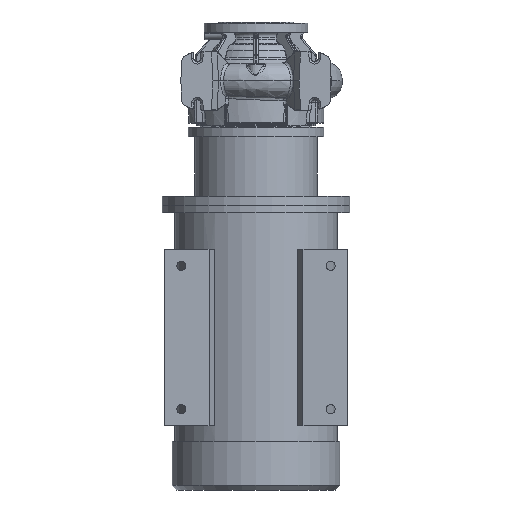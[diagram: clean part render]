
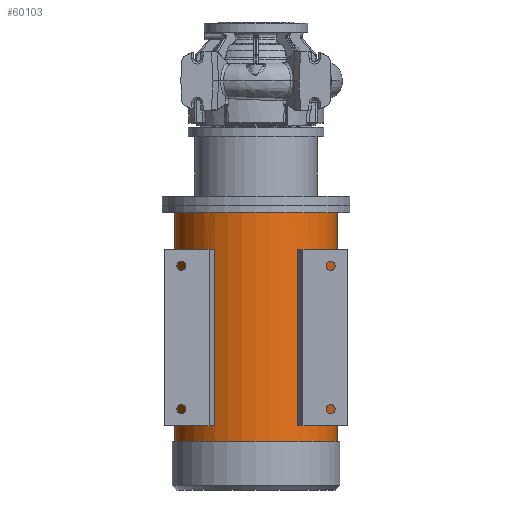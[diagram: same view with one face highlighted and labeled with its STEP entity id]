
A CAD part, front view. The second image highlights one B-rep face of the part: STEP entity #60103.
In plain terms, the highlighted cylindrical face has radius 173.5 mm (diameter 347 mm), a partial arc.
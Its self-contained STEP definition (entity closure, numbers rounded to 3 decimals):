
#156 = FACE_BOUND ( 'NONE', #5237, .T. ) ;
#2066 = EDGE_CURVE ( 'NONE', #78027, #36172, #46026, .T. ) ;
#3642 = ORIENTED_EDGE ( 'NONE', *, *, #60835, .F. ) ;
#5149 = DIRECTION ( 'NONE',  ( 0., 0., 1. ) ) ;
#5237 = EDGE_LOOP ( 'NONE', ( #97389, #62310, #107022, #48664 ) ) ;
#5624 = FACE_OUTER_BOUND ( 'NONE', #18088, .T. ) ;
#10939 = DIRECTION ( 'NONE',  ( 0., 0., -1. ) ) ;
#13010 = DIRECTION ( 'NONE',  ( -1., 0., 0. ) ) ;
#13128 = LINE ( 'NONE', #68287, #103275 ) ;
#14822 = DIRECTION ( 'NONE',  ( -1., 0., 0. ) ) ;
#16323 = CIRCLE ( 'NONE', #40584, 173.5 ) ;
#16603 = ORIENTED_EDGE ( 'NONE', *, *, #62340, .F. ) ;
#16869 = CARTESIAN_POINT ( 'NONE',  ( 0., 0., -870.8 ) ) ;
#18088 = EDGE_LOOP ( 'NONE', ( #16603, #111174, #112441, #3642 ) ) ;
#18472 = VERTEX_POINT ( 'NONE', #107419 ) ;
#18794 = CARTESIAN_POINT ( 'NONE',  ( 87.271, -149.953, -358.8 ) ) ;
#19180 = EDGE_CURVE ( 'NONE', #18472, #52814, #80088, .T. ) ;
#21242 = ORIENTED_EDGE ( 'NONE', *, *, #62185, .F. ) ;
#21500 = CARTESIAN_POINT ( 'NONE',  ( 100.73, -141.265, -870.8 ) ) ;
#23030 = CARTESIAN_POINT ( 'NONE',  ( -173.5, 0., -870.8 ) ) ;
#28798 = FACE_BOUND ( 'NONE', #107586, .T. ) ;
#31050 = DIRECTION ( 'NONE',  ( 0., 0., -1. ) ) ;
#31471 = CARTESIAN_POINT ( 'NONE',  ( 0., 0., -358.8 ) ) ;
#31709 = VERTEX_POINT ( 'NONE', #54374 ) ;
#33489 = CARTESIAN_POINT ( 'NONE',  ( 0., 0., -358.8 ) ) ;
#34581 = CARTESIAN_POINT ( 'NONE',  ( -87.271, -149.953, -870.8 ) ) ;
#36172 = VERTEX_POINT ( 'NONE', #83974 ) ;
#39047 = DIRECTION ( 'NONE',  ( 0., 0., -1. ) ) ;
#39373 = DIRECTION ( 'NONE',  ( 0., 0., 1. ) ) ;
#40584 = AXIS2_PLACEMENT_3D ( 'NONE', #101861, #49570, #14822 ) ;
#41083 = LINE ( 'NONE', #23030, #107953 ) ;
#45282 = VERTEX_POINT ( 'NONE', #105745 ) ;
#46026 = LINE ( 'NONE', #34581, #63769 ) ;
#48474 = VERTEX_POINT ( 'NONE', #18794 ) ;
#48664 = ORIENTED_EDGE ( 'NONE', *, *, #90317, .T. ) ;
#48778 = DIRECTION ( 'NONE',  ( 0., 0., -1. ) ) ;
#49331 = CARTESIAN_POINT ( 'NONE',  ( -173.5, 0., -280.8 ) ) ;
#49570 = DIRECTION ( 'NONE',  ( 0., 0., -1. ) ) ;
#50622 = DIRECTION ( 'NONE',  ( 0., 0., -1. ) ) ;
#51324 = DIRECTION ( 'NONE',  ( 0., 0., 1. ) ) ;
#51938 = DIRECTION ( 'NONE',  ( -1., 0., 0. ) ) ;
#52814 = VERTEX_POINT ( 'NONE', #85938 ) ;
#54374 = CARTESIAN_POINT ( 'NONE',  ( -173.5, 0., -766.8 ) ) ;
#55002 = LINE ( 'NONE', #21500, #100153 ) ;
#55573 = CARTESIAN_POINT ( 'NONE',  ( -100.73, -141.265, -870.8 ) ) ;
#56141 = CARTESIAN_POINT ( 'NONE',  ( 0., 0., -733.8 ) ) ;
#56200 = CARTESIAN_POINT ( 'NONE',  ( 100.73, -141.265, -733.8 ) ) ;
#56587 = CARTESIAN_POINT ( 'NONE',  ( 173.5, 0., -280.8 ) ) ;
#56838 = VECTOR ( 'NONE', #10939, 1000. ) ;
#58120 = DIRECTION ( 'NONE',  ( 0., 0., -1. ) ) ;
#58755 = EDGE_CURVE ( 'NONE', #45282, #59648, #102111, .T. ) ;
#59648 = VERTEX_POINT ( 'NONE', #56200 ) ;
#60022 = EDGE_CURVE ( 'NONE', #84045, #31709, #41083, .T. ) ;
#60103 = ADVANCED_FACE ( 'NONE', ( #5624, #156, #28798 ), #83369, .T. ) ;
#60835 = EDGE_CURVE ( 'NONE', #89361, #31709, #16323, .T. ) ;
#62185 = EDGE_CURVE ( 'NONE', #36172, #18472, #84387, .T. ) ;
#62310 = ORIENTED_EDGE ( 'NONE', *, *, #106223, .T. ) ;
#62340 = EDGE_CURVE ( 'NONE', #76119, #89361, #97919, .T. ) ;
#63769 = VECTOR ( 'NONE', #51324, 1000. ) ;
#66203 = DIRECTION ( 'NONE',  ( -1., 0., 0. ) ) ;
#68013 = AXIS2_PLACEMENT_3D ( 'NONE', #31471, #5149, #66203 ) ;
#68287 = CARTESIAN_POINT ( 'NONE',  ( 87.271, -149.953, -870.8 ) ) ;
#68680 = CARTESIAN_POINT ( 'NONE',  ( 173.5, 0., -766.8 ) ) ;
#69019 = DIRECTION ( 'NONE',  ( 0., 0., 1. ) ) ;
#69385 = CIRCLE ( 'NONE', #91980, 173.5 ) ;
#70773 = CIRCLE ( 'NONE', #104552, 173.5 ) ;
#72224 = EDGE_CURVE ( 'NONE', #48474, #92437, #90966, .T. ) ;
#75156 = DIRECTION ( 'NONE',  ( 1., 0., 0. ) ) ;
#76119 = VERTEX_POINT ( 'NONE', #56587 ) ;
#77008 = DIRECTION ( 'NONE',  ( 0., 0., -1. ) ) ;
#78027 = VERTEX_POINT ( 'NONE', #105370 ) ;
#78535 = EDGE_CURVE ( 'NONE', #78027, #52814, #69385, .T. ) ;
#80088 = LINE ( 'NONE', #55573, #56838 ) ;
#83369 = CYLINDRICAL_SURFACE ( 'NONE', #93911, 173.5 ) ;
#83974 = CARTESIAN_POINT ( 'NONE',  ( -87.271, -149.953, -358.8 ) ) ;
#84045 = VERTEX_POINT ( 'NONE', #49331 ) ;
#84387 = CIRCLE ( 'NONE', #93396, 173.5 ) ;
#85938 = CARTESIAN_POINT ( 'NONE',  ( -100.73, -141.265, -733.8 ) ) ;
#87647 = ORIENTED_EDGE ( 'NONE', *, *, #19180, .F. ) ;
#89361 = VERTEX_POINT ( 'NONE', #68680 ) ;
#90317 = EDGE_CURVE ( 'NONE', #92437, #59648, #55002, .T. ) ;
#90966 = CIRCLE ( 'NONE', #68013, 173.5 ) ;
#91163 = ORIENTED_EDGE ( 'NONE', *, *, #2066, .F. ) ;
#91980 = AXIS2_PLACEMENT_3D ( 'NONE', #92282, #48778, #75156 ) ;
#92282 = CARTESIAN_POINT ( 'NONE',  ( 0., 0., -733.8 ) ) ;
#92437 = VERTEX_POINT ( 'NONE', #95400 ) ;
#93396 = AXIS2_PLACEMENT_3D ( 'NONE', #33489, #77008, #95637 ) ;
#93911 = AXIS2_PLACEMENT_3D ( 'NONE', #16869, #112298, #51938 ) ;
#94877 = EDGE_CURVE ( 'NONE', #76119, #84045, #70773, .T. ) ;
#95400 = CARTESIAN_POINT ( 'NONE',  ( 100.73, -141.265, -358.8 ) ) ;
#95637 = DIRECTION ( 'NONE',  ( 1., 0., 0. ) ) ;
#97389 = ORIENTED_EDGE ( 'NONE', *, *, #58755, .F. ) ;
#97919 = LINE ( 'NONE', #103297, #100683 ) ;
#100153 = VECTOR ( 'NONE', #31050, 1000. ) ;
#100683 = VECTOR ( 'NONE', #50622, 1000. ) ;
#101861 = CARTESIAN_POINT ( 'NONE',  ( 0., 0., -766.8 ) ) ;
#102111 = CIRCLE ( 'NONE', #112144, 173.5 ) ;
#102382 = DIRECTION ( 'NONE',  ( -1., 0., 0. ) ) ;
#103275 = VECTOR ( 'NONE', #69019, 1000. ) ;
#103297 = CARTESIAN_POINT ( 'NONE',  ( 173.5, 0., -870.8 ) ) ;
#104552 = AXIS2_PLACEMENT_3D ( 'NONE', #105954, #39047, #102382 ) ;
#105370 = CARTESIAN_POINT ( 'NONE',  ( -87.271, -149.953, -733.8 ) ) ;
#105745 = CARTESIAN_POINT ( 'NONE',  ( 87.271, -149.953, -733.8 ) ) ;
#105954 = CARTESIAN_POINT ( 'NONE',  ( 0., 0., -280.8 ) ) ;
#106223 = EDGE_CURVE ( 'NONE', #45282, #48474, #13128, .T. ) ;
#107022 = ORIENTED_EDGE ( 'NONE', *, *, #72224, .T. ) ;
#107419 = CARTESIAN_POINT ( 'NONE',  ( -100.73, -141.265, -358.8 ) ) ;
#107586 = EDGE_LOOP ( 'NONE', ( #91163, #112773, #87647, #21242 ) ) ;
#107953 = VECTOR ( 'NONE', #58120, 1000. ) ;
#111174 = ORIENTED_EDGE ( 'NONE', *, *, #94877, .T. ) ;
#112144 = AXIS2_PLACEMENT_3D ( 'NONE', #56141, #39373, #13010 ) ;
#112298 = DIRECTION ( 'NONE',  ( 0., 0., -1. ) ) ;
#112441 = ORIENTED_EDGE ( 'NONE', *, *, #60022, .T. ) ;
#112773 = ORIENTED_EDGE ( 'NONE', *, *, #78535, .T. ) ;
